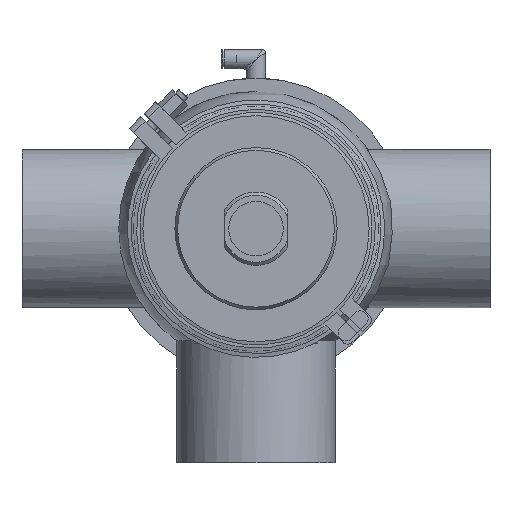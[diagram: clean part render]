
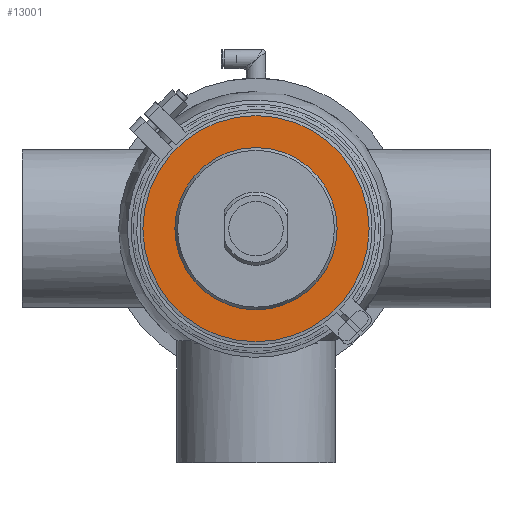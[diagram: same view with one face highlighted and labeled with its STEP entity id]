
A CAD part, front view. The second image highlights one B-rep face of the part: STEP entity #13001.
In plain terms, the highlighted planar face has unit normal (0, -1, 0).
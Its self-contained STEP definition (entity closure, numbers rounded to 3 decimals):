
#2151 = AXIS2_PLACEMENT_3D ( 'NONE', #28911, #4821, #29839 ) ;
#2878 = CARTESIAN_POINT ( 'NONE',  ( 0., -13., 52. ) ) ;
#4821 = DIRECTION ( 'NONE',  ( 0., 1., 0. ) ) ;
#6817 = DIRECTION ( 'NONE',  ( 0., 0., 1. ) ) ;
#9776 = EDGE_CURVE ( 'NONE', #62361, #62361, #31526, .T. ) ;
#10787 = ORIENTED_EDGE ( 'NONE', *, *, #51632, .T. ) ;
#11281 = CARTESIAN_POINT ( 'NONE',  ( 0., -13., 0. ) ) ;
#12699 = AXIS2_PLACEMENT_3D ( 'NONE', #52017, #36172, #61510 ) ;
#13001 = ADVANCED_FACE ( 'NONE', ( #13376, #32691 ), #46301, .T. ) ;
#13376 = FACE_BOUND ( 'NONE', #44087, .T. ) ;
#14214 = CARTESIAN_POINT ( 'NONE',  ( 0., -13., 72.5 ) ) ;
#26347 = ORIENTED_EDGE ( 'NONE', *, *, #9776, .F. ) ;
#28911 = CARTESIAN_POINT ( 'NONE',  ( 0., -13., 0. ) ) ;
#29839 = DIRECTION ( 'NONE',  ( 0., 0., 1. ) ) ;
#31526 = CIRCLE ( 'NONE', #2151, 72.5 ) ;
#32691 = FACE_OUTER_BOUND ( 'NONE', #48266, .T. ) ;
#35639 = DIRECTION ( 'NONE',  ( 0., 1., 0. ) ) ;
#36172 = DIRECTION ( 'NONE',  ( 0., -1., 0. ) ) ;
#36204 = CIRCLE ( 'NONE', #60502, 52. ) ;
#41828 = VERTEX_POINT ( 'NONE', #2878 ) ;
#44087 = EDGE_LOOP ( 'NONE', ( #10787 ) ) ;
#46301 = PLANE ( 'NONE',  #12699 ) ;
#48266 = EDGE_LOOP ( 'NONE', ( #26347 ) ) ;
#51632 = EDGE_CURVE ( 'NONE', #41828, #41828, #36204, .T. ) ;
#52017 = CARTESIAN_POINT ( 'NONE',  ( -72.5, -13., 0. ) ) ;
#60502 = AXIS2_PLACEMENT_3D ( 'NONE', #11281, #35639, #6817 ) ;
#61510 = DIRECTION ( 'NONE',  ( 0., 0., -1. ) ) ;
#62361 = VERTEX_POINT ( 'NONE', #14214 ) ;
